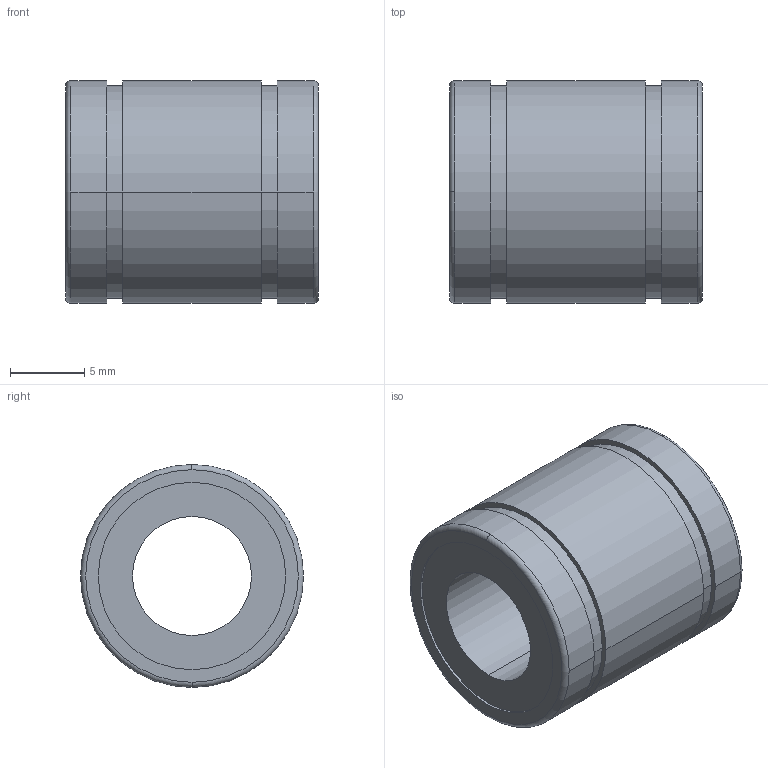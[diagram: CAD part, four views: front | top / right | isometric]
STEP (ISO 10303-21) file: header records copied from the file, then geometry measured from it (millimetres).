
FILE_DESCRIPTION(('FreeCAD Model'),'2;1');
FILE_NAME('Open CASCADE Shape Model','2021-05-03T10:52:17',('Author'),( ''),'Open CASCADE STEP processor 7.5','FreeCAD','Unknown');
FILE_SCHEMA(('AUTOMOTIVE_DESIGN { 1 0 10303 214 1 1 1 1 }'));
Length unit declared in the file: millimetre
Products named in the file (1): ball_bearing_lm8suu
Bounding box: 17 x 15 x 15 mm (x, y, z)
Volume: 2086.4 mm3; surface area: 1531.5 mm2
Topology: 1 solids, 1 shells, 28 faces, 62 edges, 42 vertices
Faces by surface type: cylinder 16, plane 8, torus 4
Entity records: 1893 total; most frequent: CARTESIAN_POINT 395, DIRECTION 267, ORIENTED_EDGE 124, PCURVE 124, DEFINITIONAL_REPRESENTATION 124, LINE 106, VECTOR 106, AXIS2_PLACEMENT_3D 75
